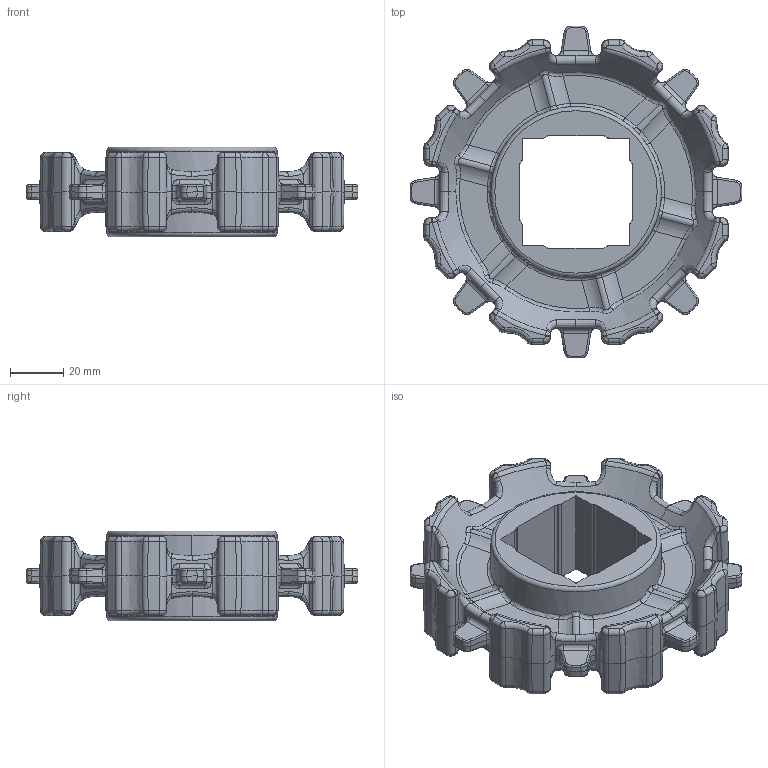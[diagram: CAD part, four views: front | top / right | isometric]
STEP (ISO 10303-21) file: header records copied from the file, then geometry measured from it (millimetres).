
FILE_DESCRIPTION(/* description */ (''),/* implementation_level */ '2;1');
FILE_NAME(/* name */ 'HS-3600-8T.stp',/* time_stamp */ '2024-12-24T14:58:11+08:00',/* author */ (''),/* organization */ (''),/* preprocessor_version */ 'ST-DEVELOPER v15',/* originating_system */ 'SIEMENS PLM Software NX 8.5',/* authorisation */ '');
FILE_SCHEMA (('AP203_CONFIGURATION_CONTROLLED_3D_DESIGN_OF_MECHANICAL_PARTS_AND_ASSEMBLIES_MIM_LF { 1 0 10303 403 2 1 2}'));
Length unit declared in the file: millimetre
Products named in the file (1): Admi5438F4E0xaxo
Bounding box: 125.2 x 125.2 x 33.8 mm (x, y, z)
Volume: 143438.1 mm3; surface area: 41497.6 mm2
Topology: 1 solids, 1 shells, 948 faces, 2198 edges, 1252 vertices
Faces by surface type: bspline 352, cylinder 324, plane 194, torus 58, cone 20
Entity records: 46406 total; most frequent: CARTESIAN_POINT 22194, ORIENTED_EDGE 4392, DIRECTION 2518, EDGE_CURVE 2196, VERTEX_POINT 1252, B_SPLINE_CURVE_WITH_KNOTS 1042, EDGE_LOOP 952, ADVANCED_FACE 948
